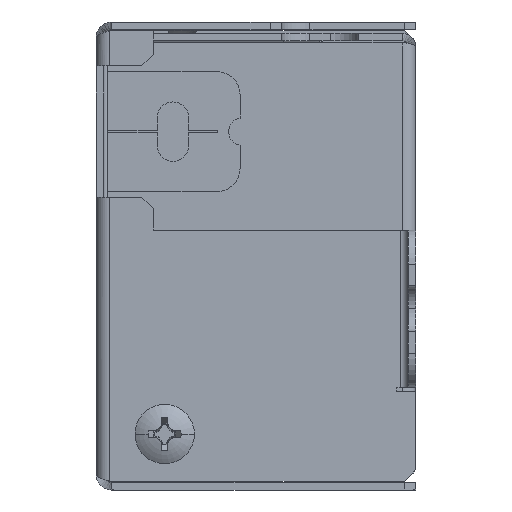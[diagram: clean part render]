
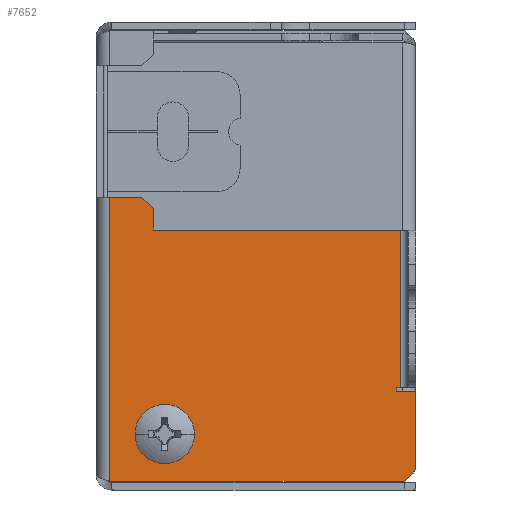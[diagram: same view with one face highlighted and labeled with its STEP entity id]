
A CAD part, left-side view. The second image highlights one B-rep face of the part: STEP entity #7652.
In plain terms, the highlighted planar face has unit normal (-1, 0, 0).
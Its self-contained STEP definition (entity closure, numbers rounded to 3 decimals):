
#258 = VECTOR ( 'NONE', #14852, 1000. ) ;
#409 = DIRECTION ( 'NONE',  ( 0., -0.707, -0.707 ) ) ;
#422 = ORIENTED_EDGE ( 'NONE', *, *, #2656, .T. ) ;
#754 = VECTOR ( 'NONE', #14877, 1000. ) ;
#777 = VERTEX_POINT ( 'NONE', #4627 ) ;
#967 = LINE ( 'NONE', #10490, #5000 ) ;
#1123 = ORIENTED_EDGE ( 'NONE', *, *, #4438, .F. ) ;
#1194 = CARTESIAN_POINT ( 'NONE',  ( -42.5, 4.34, -2.275 ) ) ;
#1639 = CARTESIAN_POINT ( 'NONE',  ( -42.5, 0.5, 19.74 ) ) ;
#1818 = CARTESIAN_POINT ( 'NONE',  ( -42.5, 27.34, 11.855 ) ) ;
#1961 = LINE ( 'NONE', #8292, #754 ) ;
#2314 = FACE_BOUND ( 'NONE', #10993, .T. ) ;
#2531 = DIRECTION ( 'NONE',  ( 0., -1., 0. ) ) ;
#2563 = ORIENTED_EDGE ( 'NONE', *, *, #10980, .T. ) ;
#2656 = EDGE_CURVE ( 'NONE', #13003, #777, #5537, .T. ) ;
#2666 = DIRECTION ( 'NONE',  ( -1., 0., 0. ) ) ;
#2704 = CARTESIAN_POINT ( 'NONE',  ( -42.5, 0.5, -19.74 ) ) ;
#2811 = CARTESIAN_POINT ( 'NONE',  ( -42.5, 25.98, -10.9 ) ) ;
#2905 = VECTOR ( 'NONE', #14357, 1000. ) ;
#2984 = LINE ( 'NONE', #2704, #7455 ) ;
#3023 = DIRECTION ( 'NONE',  ( 0., 0., -1. ) ) ;
#3041 = EDGE_CURVE ( 'NONE', #11229, #9831, #13905, .T. ) ;
#3561 = EDGE_CURVE ( 'NONE', #13475, #13003, #12884, .T. ) ;
#3573 = VECTOR ( 'NONE', #409, 1000. ) ;
#3633 = VECTOR ( 'NONE', #8138, 1000. ) ;
#3689 = LINE ( 'NONE', #4408, #258 ) ;
#3873 = CARTESIAN_POINT ( 'NONE',  ( -42.5, 0.5, -5.15 ) ) ;
#4031 = CARTESIAN_POINT ( 'NONE',  ( -42.5, 4.34, -4.15 ) ) ;
#4171 = DIRECTION ( 'NONE',  ( 0., 0., -1. ) ) ;
#4320 = CARTESIAN_POINT ( 'NONE',  ( -42.5, 8.34, 11.855 ) ) ;
#4336 = CARTESIAN_POINT ( 'NONE',  ( -42.5, 4.34, -4.15 ) ) ;
#4408 = CARTESIAN_POINT ( 'NONE',  ( -42.5, 8.34, -5.15 ) ) ;
#4438 = EDGE_CURVE ( 'NONE', #14108, #6353, #9780, .T. ) ;
#4521 = DIRECTION ( 'NONE',  ( 1., 0., 0. ) ) ;
#4593 = VECTOR ( 'NONE', #2531, 1000. ) ;
#4620 = EDGE_CURVE ( 'NONE', #777, #13860, #8951, .T. ) ;
#4627 = CARTESIAN_POINT ( 'NONE',  ( -42.5, 25.65, 11.855 ) ) ;
#4704 = ORIENTED_EDGE ( 'NONE', *, *, #7950, .T. ) ;
#4718 = VERTEX_POINT ( 'NONE', #1639 ) ;
#4786 = CARTESIAN_POINT ( 'NONE',  ( -42.5, 25.65, 11.525 ) ) ;
#5000 = VECTOR ( 'NONE', #15508, 1000. ) ;
#5537 = LINE ( 'NONE', #4320, #9631 ) ;
#5574 = CARTESIAN_POINT ( 'NONE',  ( -42.5, 25.98, -2.275 ) ) ;
#5706 = ORIENTED_EDGE ( 'NONE', *, *, #10151, .T. ) ;
#5883 = DIRECTION ( 'NONE',  ( 0., 0., -1. ) ) ;
#5941 = VERTEX_POINT ( 'NONE', #13511 ) ;
#6353 = VERTEX_POINT ( 'NONE', #11313 ) ;
#6356 = ORIENTED_EDGE ( 'NONE', *, *, #9700, .T. ) ;
#6575 = CARTESIAN_POINT ( 'NONE',  ( -42.5, 5.34, 15.6 ) ) ;
#6718 = EDGE_CURVE ( 'NONE', #4718, #14005, #2984, .T. ) ;
#7135 = PLANE ( 'NONE',  #10188 ) ;
#7244 = LINE ( 'NONE', #10286, #4593 ) ;
#7395 = ORIENTED_EDGE ( 'NONE', *, *, #10817, .T. ) ;
#7455 = VECTOR ( 'NONE', #3023, 1000. ) ;
#7652 = ADVANCED_FACE ( 'NONE', ( #2314, #13283 ), #7135, .F. ) ;
#7950 = EDGE_CURVE ( 'NONE', #4718, #11913, #13848, .T. ) ;
#8007 = CARTESIAN_POINT ( 'NONE',  ( -42.5, 27.34, 18.74 ) ) ;
#8015 = CARTESIAN_POINT ( 'NONE',  ( -42.5, 4.34, -10.9 ) ) ;
#8138 = DIRECTION ( 'NONE',  ( 0., 1., 0. ) ) ;
#8292 = CARTESIAN_POINT ( 'NONE',  ( -42.5, 8.34, 11.525 ) ) ;
#8609 = AXIS2_PLACEMENT_3D ( 'NONE', #6575, #2666, #13330 ) ;
#8792 = EDGE_LOOP ( 'NONE', ( #13292, #7395, #12661, #10930, #4704, #12038, #15108, #422, #13516, #2563, #6356, #5706 ) ) ;
#8907 = VERTEX_POINT ( 'NONE', #11547 ) ;
#8951 = LINE ( 'NONE', #13730, #14478 ) ;
#9405 = CARTESIAN_POINT ( 'NONE',  ( -42.5, 7.09, 15.6 ) ) ;
#9631 = VECTOR ( 'NONE', #13450, 1000. ) ;
#9700 = EDGE_CURVE ( 'NONE', #5941, #15974, #15224, .T. ) ;
#9779 = AXIS2_PLACEMENT_3D ( 'NONE', #11277, #15488, #12639 ) ;
#9780 = CIRCLE ( 'NONE', #8609, 1.75 ) ;
#9831 = VERTEX_POINT ( 'NONE', #4336 ) ;
#9883 = CARTESIAN_POINT ( 'NONE',  ( -42.5, 27.34, -10.9 ) ) ;
#9983 = DIRECTION ( 'NONE',  ( 0., 0., -1. ) ) ;
#10151 = EDGE_CURVE ( 'NONE', #15974, #11229, #7244, .T. ) ;
#10188 = AXIS2_PLACEMENT_3D ( 'NONE', #12337, #4521, #13812 ) ;
#10286 = CARTESIAN_POINT ( 'NONE',  ( -42.5, 8.34, -2.275 ) ) ;
#10323 = VECTOR ( 'NONE', #4171, 1000. ) ;
#10490 = CARTESIAN_POINT ( 'NONE',  ( -42.5, 32.66, 13.42 ) ) ;
#10715 = EDGE_CURVE ( 'NONE', #11913, #13475, #967, .T. ) ;
#10817 = EDGE_CURVE ( 'NONE', #9831, #8907, #16457, .T. ) ;
#10930 = ORIENTED_EDGE ( 'NONE', *, *, #6718, .F. ) ;
#10980 = EDGE_CURVE ( 'NONE', #13860, #5941, #1961, .T. ) ;
#10993 = EDGE_LOOP ( 'NONE', ( #1123, #15753 ) ) ;
#11229 = VERTEX_POINT ( 'NONE', #1194 ) ;
#11277 = CARTESIAN_POINT ( 'NONE',  ( -42.5, 5.34, 15.6 ) ) ;
#11313 = CARTESIAN_POINT ( 'NONE',  ( -42.5, 3.59, 15.6 ) ) ;
#11547 = CARTESIAN_POINT ( 'NONE',  ( -42.5, 3.34, -5.15 ) ) ;
#11694 = CARTESIAN_POINT ( 'NONE',  ( -42.5, 8.34, 19.74 ) ) ;
#11913 = VERTEX_POINT ( 'NONE', #14095 ) ;
#12038 = ORIENTED_EDGE ( 'NONE', *, *, #10715, .T. ) ;
#12337 = CARTESIAN_POINT ( 'NONE',  ( -42.5, 8.34, -10.9 ) ) ;
#12639 = DIRECTION ( 'NONE',  ( 0., 1., 0. ) ) ;
#12661 = ORIENTED_EDGE ( 'NONE', *, *, #13579, .F. ) ;
#12884 = LINE ( 'NONE', #9883, #14712 ) ;
#13003 = VERTEX_POINT ( 'NONE', #1818 ) ;
#13283 = FACE_OUTER_BOUND ( 'NONE', #8792, .T. ) ;
#13292 = ORIENTED_EDGE ( 'NONE', *, *, #3041, .T. ) ;
#13330 = DIRECTION ( 'NONE',  ( 0., 1., 0. ) ) ;
#13450 = DIRECTION ( 'NONE',  ( 0., -1., 0. ) ) ;
#13475 = VERTEX_POINT ( 'NONE', #8007 ) ;
#13511 = CARTESIAN_POINT ( 'NONE',  ( -42.5, 25.98, 11.525 ) ) ;
#13516 = ORIENTED_EDGE ( 'NONE', *, *, #4620, .T. ) ;
#13579 = EDGE_CURVE ( 'NONE', #14005, #8907, #3689, .T. ) ;
#13730 = CARTESIAN_POINT ( 'NONE',  ( -42.5, 25.65, -10.9 ) ) ;
#13812 = DIRECTION ( 'NONE',  ( 0., 1., 0. ) ) ;
#13848 = LINE ( 'NONE', #11694, #3633 ) ;
#13860 = VERTEX_POINT ( 'NONE', #4786 ) ;
#13905 = LINE ( 'NONE', #8015, #2905 ) ;
#14005 = VERTEX_POINT ( 'NONE', #3873 ) ;
#14095 = CARTESIAN_POINT ( 'NONE',  ( -42.5, 26.34, 19.74 ) ) ;
#14108 = VERTEX_POINT ( 'NONE', #9405 ) ;
#14357 = DIRECTION ( 'NONE',  ( 0., 0., -1. ) ) ;
#14478 = VECTOR ( 'NONE', #5883, 1000. ) ;
#14712 = VECTOR ( 'NONE', #9983, 1000. ) ;
#14852 = DIRECTION ( 'NONE',  ( 0., 1., 0. ) ) ;
#14877 = DIRECTION ( 'NONE',  ( 0., 1., 0. ) ) ;
#15108 = ORIENTED_EDGE ( 'NONE', *, *, #3561, .T. ) ;
#15147 = CIRCLE ( 'NONE', #9779, 1.75 ) ;
#15224 = LINE ( 'NONE', #2811, #10323 ) ;
#15488 = DIRECTION ( 'NONE',  ( -1., 0., 0. ) ) ;
#15508 = DIRECTION ( 'NONE',  ( 0., 0.707, -0.707 ) ) ;
#15753 = ORIENTED_EDGE ( 'NONE', *, *, #16807, .F. ) ;
#15974 = VERTEX_POINT ( 'NONE', #5574 ) ;
#16457 = LINE ( 'NONE', #4031, #3573 ) ;
#16807 = EDGE_CURVE ( 'NONE', #6353, #14108, #15147, .T. ) ;
